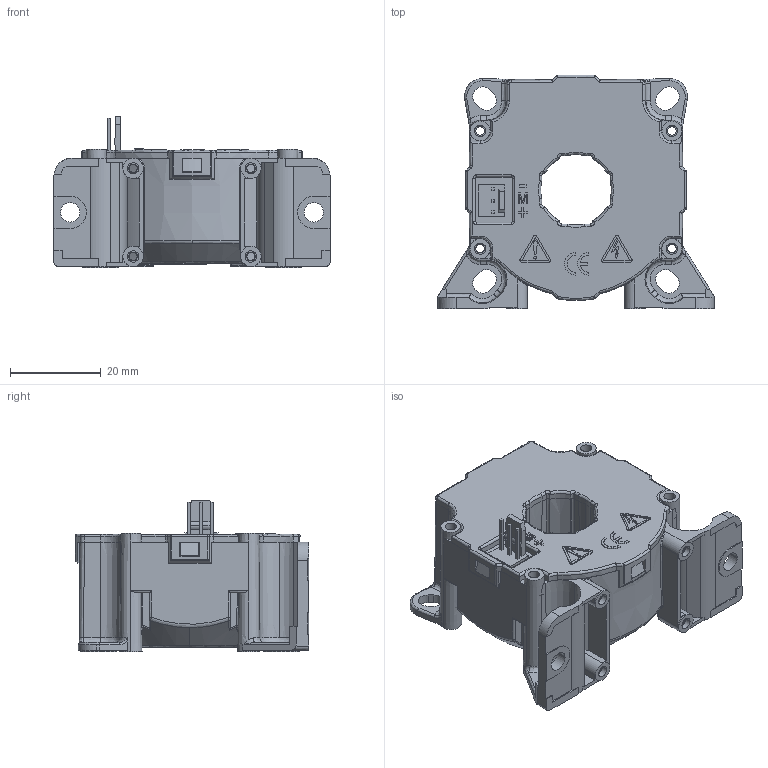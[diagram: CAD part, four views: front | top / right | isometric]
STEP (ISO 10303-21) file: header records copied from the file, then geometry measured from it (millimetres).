
FILE_DESCRIPTION(('CoCreate Modeling STEP Export'),'2;1');
FILE_NAME('LF205-S Blackbox..stp','2010-06-02T10:57:22',(''),(''),'CoCreate Modeling STEP processor for AP214 (Solid Model)','CoCreate Modeling 16.00A 16-Aug-2008 (C) Parametric Technology GmbH','');
FILE_SCHEMA(('AUTOMOTIVE_DESIGN { 1 0 10303 214 1 1 1 1 }'));
Length unit declared in the file: millimetre
Products named in the file (4): couvercle_Molex3pines; Boitier; molex3P_5045; LF205-S_blackbox
Assembly tree (3 placements, depth 2):
  LF205-S_blackbox
    molex3P_5045
    Boitier
    couvercle_Molex3pines
Bounding box: 61 x 51.63 x 33.49 mm (x, y, z)
Volume: 43252.5 mm3; surface area: 17523 mm2
Topology: 3 solids, 3 shells, 1629 faces, 4345 edges, 2820 vertices
Faces by surface type: plane 955, cylinder 371, bspline 180, extrusion 55, cone 48, torus 20
Entity records: 69533 total; most frequent: CARTESIAN_POINT 31873, ORIENTED_EDGE 8670, DIRECTION 6183, EDGE_CURVE 4335, VECTOR 2835, VERTEX_POINT 2820, LINE 2780, EDGE_LOOP 1771
